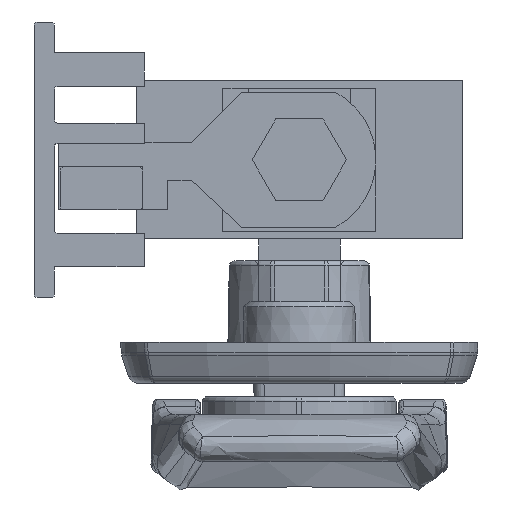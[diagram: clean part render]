
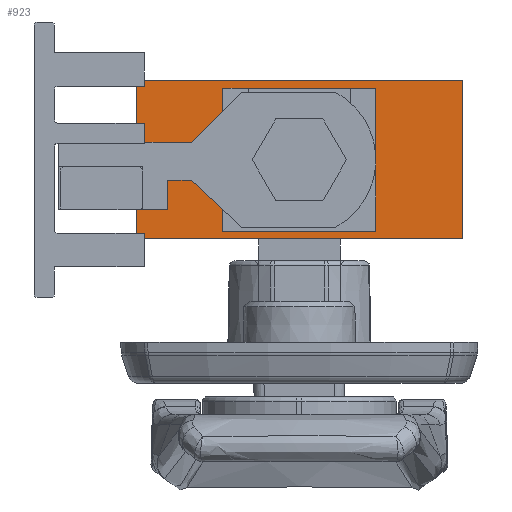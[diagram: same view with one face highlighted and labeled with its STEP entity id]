
A CAD part, front view. The second image highlights one B-rep face of the part: STEP entity #923.
In plain terms, the highlighted planar face has unit normal (0, -1, 0).
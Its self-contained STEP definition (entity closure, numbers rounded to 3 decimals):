
#652 = CARTESIAN_POINT ( 'NONE',  ( -7., -199.25, -6.25 ) ) ;
#744 = EDGE_CURVE ( 'NONE', #9604, #14998, #1324, .T. ) ;
#782 = ORIENTED_EDGE ( 'NONE', *, *, #24206, .F. ) ;
#923 = ADVANCED_FACE ( 'NONE', ( #29674, #11950 ), #19269, .F. ) ;
#1087 = CARTESIAN_POINT ( 'NONE',  ( 7., -199.25, -6.25 ) ) ;
#1324 = LINE ( 'NONE', #8809, #3994 ) ;
#1849 = DIRECTION ( 'NONE',  ( 0., 0., 1. ) ) ;
#1912 = CARTESIAN_POINT ( 'NONE',  ( 7., -199.25, 6.25 ) ) ;
#1927 = EDGE_CURVE ( 'NONE', #12175, #24762, #15423, .T. ) ;
#2225 = VECTOR ( 'NONE', #2905, 1000. ) ;
#2554 = EDGE_CURVE ( 'NONE', #18027, #13266, #30831, .T. ) ;
#2905 = DIRECTION ( 'NONE',  ( 0., 0., -1. ) ) ;
#3908 = VERTEX_POINT ( 'NONE', #7252 ) ;
#3994 = VECTOR ( 'NONE', #18750, 1000. ) ;
#4289 = DIRECTION ( 'NONE',  ( 0., 1., 0. ) ) ;
#5477 = LINE ( 'NONE', #13103, #11143 ) ;
#5605 = EDGE_LOOP ( 'NONE', ( #28437, #18281, #18925, #12215 ) ) ;
#6467 = DIRECTION ( 'NONE',  ( 1., 0., 0. ) ) ;
#7252 = CARTESIAN_POINT ( 'NONE',  ( 7., -199.25, 6.25 ) ) ;
#8503 = CARTESIAN_POINT ( 'NONE',  ( 16., -199.25, -7.75 ) ) ;
#8809 = CARTESIAN_POINT ( 'NONE',  ( -16., -199.25, 7.75 ) ) ;
#8884 = CARTESIAN_POINT ( 'NONE',  ( 16., -199.25, 7.75 ) ) ;
#9018 = VECTOR ( 'NONE', #28746, 1000. ) ;
#9604 = VERTEX_POINT ( 'NONE', #9704 ) ;
#9658 = CARTESIAN_POINT ( 'NONE',  ( -16., -199.25, -7.75 ) ) ;
#9704 = CARTESIAN_POINT ( 'NONE',  ( -16., -199.25, 7.75 ) ) ;
#10295 = LINE ( 'NONE', #25582, #29857 ) ;
#11143 = VECTOR ( 'NONE', #15229, 1000. ) ;
#11431 = EDGE_CURVE ( 'NONE', #3908, #15180, #10295, .T. ) ;
#11950 = FACE_OUTER_BOUND ( 'NONE', #17642, .T. ) ;
#12105 = ORIENTED_EDGE ( 'NONE', *, *, #18494, .T. ) ;
#12175 = VERTEX_POINT ( 'NONE', #8884 ) ;
#12215 = ORIENTED_EDGE ( 'NONE', *, *, #2554, .F. ) ;
#12681 = VECTOR ( 'NONE', #31545, 1000. ) ;
#13046 = DIRECTION ( 'NONE',  ( -1., 0., 0. ) ) ;
#13103 = CARTESIAN_POINT ( 'NONE',  ( -16., -199.25, 7.75 ) ) ;
#13266 = VERTEX_POINT ( 'NONE', #1087 ) ;
#14422 = ORIENTED_EDGE ( 'NONE', *, *, #1927, .F. ) ;
#14998 = VERTEX_POINT ( 'NONE', #9658 ) ;
#15180 = VERTEX_POINT ( 'NONE', #25303 ) ;
#15229 = DIRECTION ( 'NONE',  ( 1., 0., 0. ) ) ;
#15423 = LINE ( 'NONE', #25045, #2225 ) ;
#16168 = DIRECTION ( 'NONE',  ( 0., 0., -1. ) ) ;
#16716 = LINE ( 'NONE', #1912, #12681 ) ;
#17642 = EDGE_LOOP ( 'NONE', ( #12105, #14422, #782, #27578 ) ) ;
#18027 = VERTEX_POINT ( 'NONE', #652 ) ;
#18281 = ORIENTED_EDGE ( 'NONE', *, *, #11431, .F. ) ;
#18494 = EDGE_CURVE ( 'NONE', #14998, #24762, #23736, .T. ) ;
#18750 = DIRECTION ( 'NONE',  ( 0., 0., -1. ) ) ;
#18811 = CARTESIAN_POINT ( 'NONE',  ( -7., -199.25, -6.25 ) ) ;
#18925 = ORIENTED_EDGE ( 'NONE', *, *, #23928, .F. ) ;
#19269 = PLANE ( 'NONE',  #30290 ) ;
#19888 = CARTESIAN_POINT ( 'NONE',  ( -16., -199.25, 7.75 ) ) ;
#21068 = CARTESIAN_POINT ( 'NONE',  ( -7., -199.25, -6.25 ) ) ;
#23212 = LINE ( 'NONE', #21068, #29442 ) ;
#23736 = LINE ( 'NONE', #26646, #30988 ) ;
#23928 = EDGE_CURVE ( 'NONE', #13266, #3908, #16716, .T. ) ;
#24206 = EDGE_CURVE ( 'NONE', #9604, #12175, #5477, .T. ) ;
#24762 = VERTEX_POINT ( 'NONE', #8503 ) ;
#25045 = CARTESIAN_POINT ( 'NONE',  ( 16., -199.25, 7.75 ) ) ;
#25303 = CARTESIAN_POINT ( 'NONE',  ( -7., -199.25, 6.25 ) ) ;
#25582 = CARTESIAN_POINT ( 'NONE',  ( 7., -199.25, 6.25 ) ) ;
#26537 = EDGE_CURVE ( 'NONE', #15180, #18027, #23212, .T. ) ;
#26646 = CARTESIAN_POINT ( 'NONE',  ( -16., -199.25, -7.75 ) ) ;
#27578 = ORIENTED_EDGE ( 'NONE', *, *, #744, .T. ) ;
#28437 = ORIENTED_EDGE ( 'NONE', *, *, #26537, .F. ) ;
#28746 = DIRECTION ( 'NONE',  ( 1., 0., 0. ) ) ;
#29442 = VECTOR ( 'NONE', #16168, 1000. ) ;
#29674 = FACE_BOUND ( 'NONE', #5605, .T. ) ;
#29857 = VECTOR ( 'NONE', #13046, 1000. ) ;
#30290 = AXIS2_PLACEMENT_3D ( 'NONE', #19888, #4289, #1849 ) ;
#30831 = LINE ( 'NONE', #18811, #9018 ) ;
#30988 = VECTOR ( 'NONE', #6467, 1000. ) ;
#31545 = DIRECTION ( 'NONE',  ( 0., 0., 1. ) ) ;
